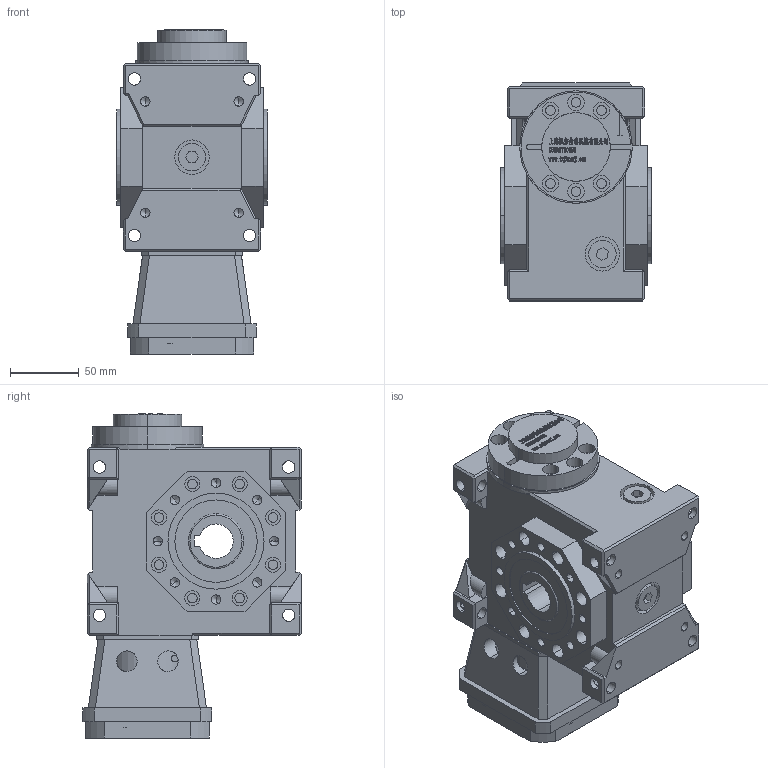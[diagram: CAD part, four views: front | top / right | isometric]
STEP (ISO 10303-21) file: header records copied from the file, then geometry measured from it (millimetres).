
FILE_DESCRIPTION (( 'STEP AP203' ), '1' );
FILE_NAME ('FXLB050-(5~90)-CR-19-70-90-M6.step', '2022-11-06T03:59:46', ( '' ), ( '' ), 'SwSTEP 2.0', 'SolidWorks 2020', '' );
FILE_SCHEMA (( 'CONFIG_CONTROL_DESIGN' ));
Length unit declared in the file: millimetre
Products named in the file (8): JDLB050-ST94________.step; FXLB050-(5~90)-CR-19-70-90-M6.step; 錨璃223^FXLB050-(5~90)-CR-19-70-90-M6; JDLB050-CR____.step; ______BD56-60-19-15____.step; ST90-70-90-M6____________.step; JDLB050-CR________25.step; FXLB050-(5~90)-CR-19-70-90-M6
Assembly tree (7 placements, depth 3):
  FXLB050-(5~90)-CR-19-70-90-M6
    FXLB050-(5~90)-CR-19-70-90-M6.step
      JDLB050-CR____.step
      JDLB050-CR________25.step
      JDLB050-ST94________.step
      ST90-70-90-M6____________.step
      ______BD56-60-19-15____.step
    錨璃223^FXLB050-(5~90)-CR-19-70-90-M6
Bounding box: 110 x 159 x 236.2 mm (x, y, z)
Volume: 2223519.3 mm3; surface area: 311960.2 mm2
Topology: 82 solids, 82 shells, 2647 faces, 6991 edges, 4568 vertices
Faces by surface type: plane 1553, bspline 572, cylinder 426, cone 76, torus 20
Entity records: 109330 total; most frequent: CARTESIAN_POINT 46395, ORIENTED_EDGE 13862, DIRECTION 10794, EDGE_CURVE 6931, LINE 4774, VECTOR 4774, VERTEX_POINT 4568, AXIS2_PLACEMENT_3D 3010
